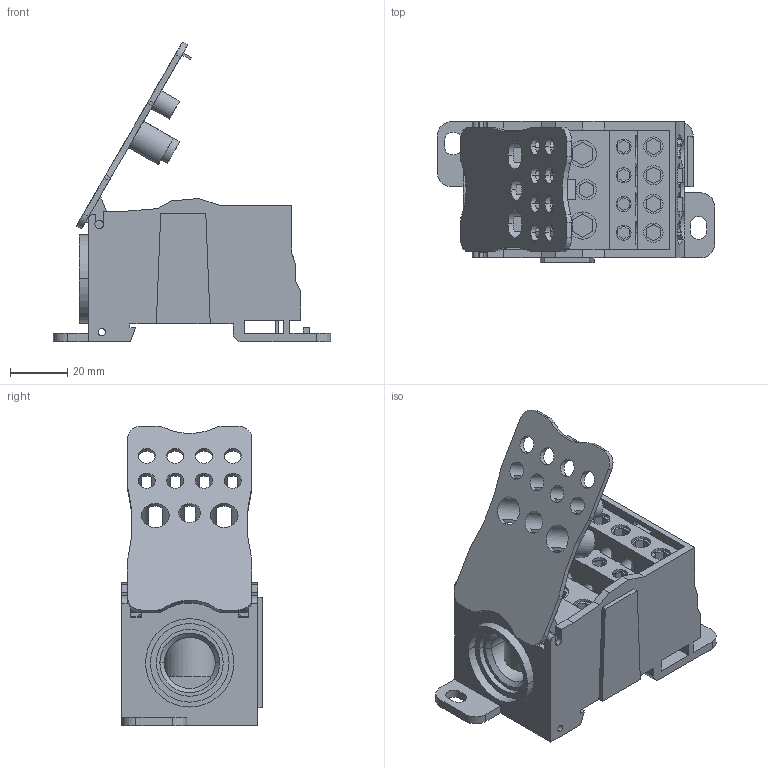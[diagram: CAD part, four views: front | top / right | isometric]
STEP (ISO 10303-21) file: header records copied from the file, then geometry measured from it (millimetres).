
FILE_DESCRIPTION (( 'STEP AP203' ), '1' );
FILE_NAME ('plc-kbr400 Áëîê ÊÁÐ íà DIN-ðåéêó è ìîíòàæíóþ ïàíåëü 400A.STEP', '2017-02-20T13:56:16', ( 'kuryshev' ), ( '' ), 'SwSTEP 2.0', 'SolidWorks 2010', '' );
FILE_SCHEMA (( 'CONFIG_CONTROL_DESIGN' ));
Length unit declared in the file: millimetre
Products named in the file (1): plc-kbr400 Áëîê ÊÁÐ íà DIN-ðåéêó è ìîíòàæíóþ ïàíåëü 400A
Bounding box: 96.7 x 49.1 x 104.58 mm (x, y, z)
Volume: 97809.6 mm3; surface area: 48751.3 mm2
Topology: 2 solids, 2 shells, 506 faces, 1436 edges, 948 vertices
Faces by surface type: plane 326, cylinder 177, cone 2, torus 1
Entity records: 17653 total; most frequent: CARTESIAN_POINT 4018, ORIENTED_EDGE 2872, DIRECTION 2784, EDGE_CURVE 1436, VECTOR 984, LINE 984, VERTEX_POINT 948, AXIS2_PLACEMENT_3D 900
